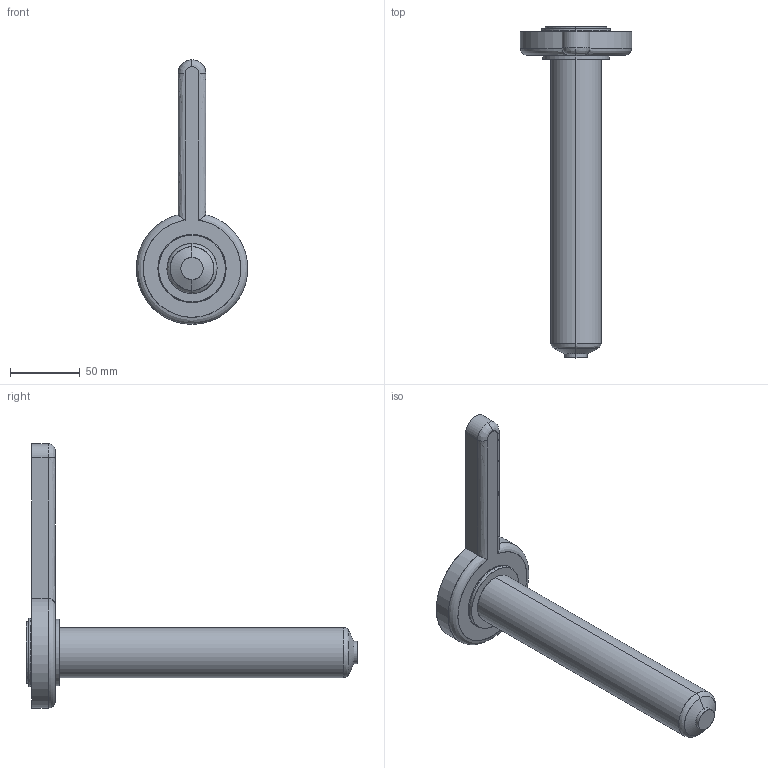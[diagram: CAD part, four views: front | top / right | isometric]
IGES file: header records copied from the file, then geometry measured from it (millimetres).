
Start section: SolidWorks IGES file using analytic representation for surfaces
Global section: file name: C:\Documents and Settings\ws-20\Desktop\TEMPORANEA\Sede UGBE5005-S-A C-214 L-236 P-0.IGS; native system: SolidWorks 2012; preprocessor: SolidWorks 2012; author: ws-20; date: 120307.090657; units: millimetre
Bounding box: 79.97 x 238.54 x 190 mm (x, y, z)
Surface area: 45798.2 mm2 (no closed solid volume)
Topology: 0 solids, 0 shells, 34 faces, 788 edges, 788 vertices
Faces by surface type: revolution 21, bspline 13
